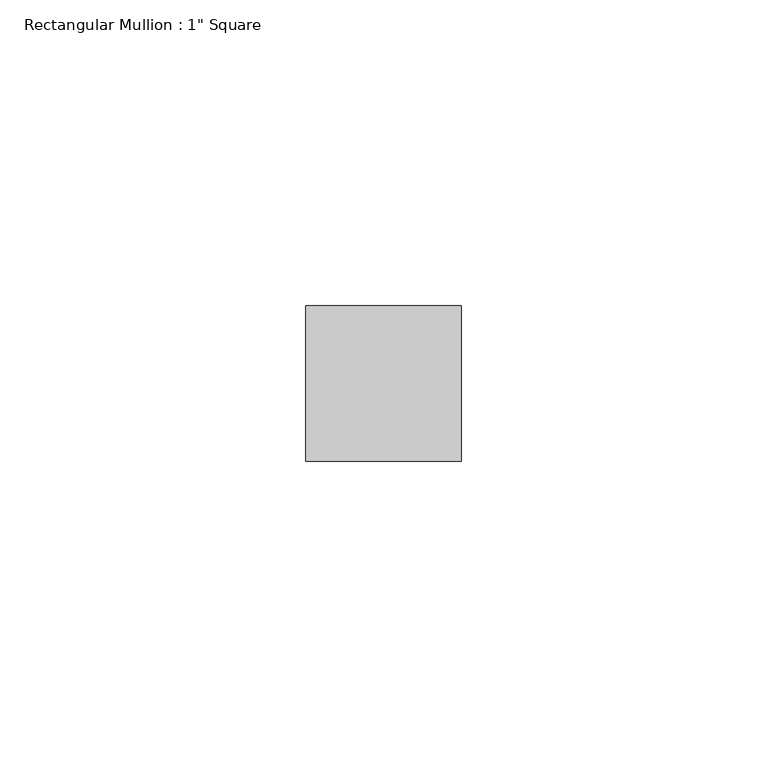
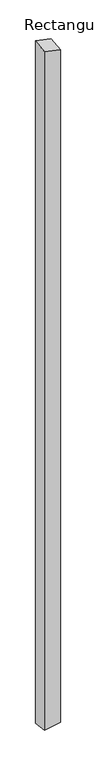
"""IFC4 building model written with IfcOpenShell, lengths in millimetres: member geometry."""

from ifc_helpers import new_model, si_unit, origin, place, context, project, spatial, faceted_brep, source, transform, mapped, element, save


def member_b50af387(model_context):
    return source(origin(), model_context, "Body", "Brep", [
        faceted_brep([(-12.7, 12.7, 4.2392104), (12.7, 12.7, -1.0021923), (12.7, 12.7, -1154.9748096), (-12.7, 12.7, -1160.2162123), (-12.7, -12.7, 1.0021923), (-12.7, -12.7, -1156.9791942), (12.7, -12.7, -4.2392104), (12.7, -12.7, -1151.7377915)], [[[0, 1, 2, 3]], [[4, 0, 3, 5]], [[6, 4, 5, 7]], [[1, 6, 7, 2]], [[1, 0, 4, 6]], [[2, 7, 5, 3]]]),
    ])


if __name__ == "__main__":
    model = new_model("IFC4")
    model_context = context("Model", 3, world=origin())
    ifc_project = project(units=[si_unit("LENGTHUNIT", "METRE", prefix="MILLI")], contexts=[model_context])
    site = spatial("IfcSite", under=ifc_project)
    building = spatial("IfcBuilding", under=site)
    placement = place(None, origin())
    member_shape = member_b50af387(model_context)
    element("IfcMember", 1, ObjectType="Rectangular Mullion : 1\" Square", at=placement, inside=building, context=model_context, shape_type="MappedRepresentation", body=[
        mapped(member_shape, transform((0.0, 0.0, 0.0), x_axis=(1.0, 0.0, 0.0), y_axis=(0.0, 1.0, 0.0), z_axis=(0.0, 0.0, 1.0))),
    ])
    save(model, "model.ifc")
